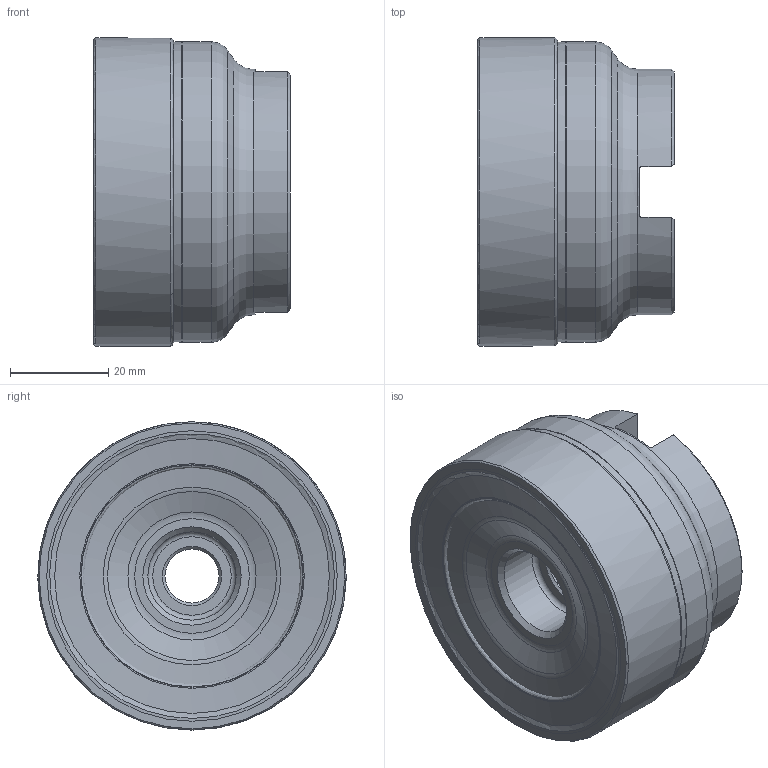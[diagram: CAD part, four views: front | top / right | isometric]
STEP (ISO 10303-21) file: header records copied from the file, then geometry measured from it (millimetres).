
FILE_DESCRIPTION(/* description */ (''),/* implementation_level */ '2;1');
FILE_NAME(/* name */ 'emp02-063-a22-ap16-06.stp',/* time_stamp */ '2018-11-15T16:58:04+08:00',/* author */ (''),/* organization */ (''),/* preprocessor_version */ 'ST-DEVELOPER v11',/* originating_system */ 'UGS - NX 5.0',/* authorisation */ '');
FILE_SCHEMA (('CONFIG_CONTROL_DESIGN'));
Length unit declared in the file: millimetre
Products named in the file (1): wuhu50757qsp
Bounding box: 40 x 62.79 x 62.79 mm (x, y, z)
Volume: 111883.3 mm3; surface area: 22802.6 mm2
Topology: 2 solids, 2 shells, 74 faces, 187 edges, 118 vertices
Faces by surface type: revolution 20, plane 19, cone 12, torus 12, cylinder 11
Full cylindrical faces by diameter (mm): 11 x1, 18 x1, 22 x1, 24 x1, 50 x1, 61.184 x1, 62.79 x1
Entity records: 2162 total; most frequent: CARTESIAN_POINT 669, DIRECTION 284, ORIENTED_EDGE 226, EDGE_LOOP 124, AXIS2_PLACEMENT_3D 118, EDGE_CURVE 113, FACE_BOUND 100, VERTEX_POINT 89
